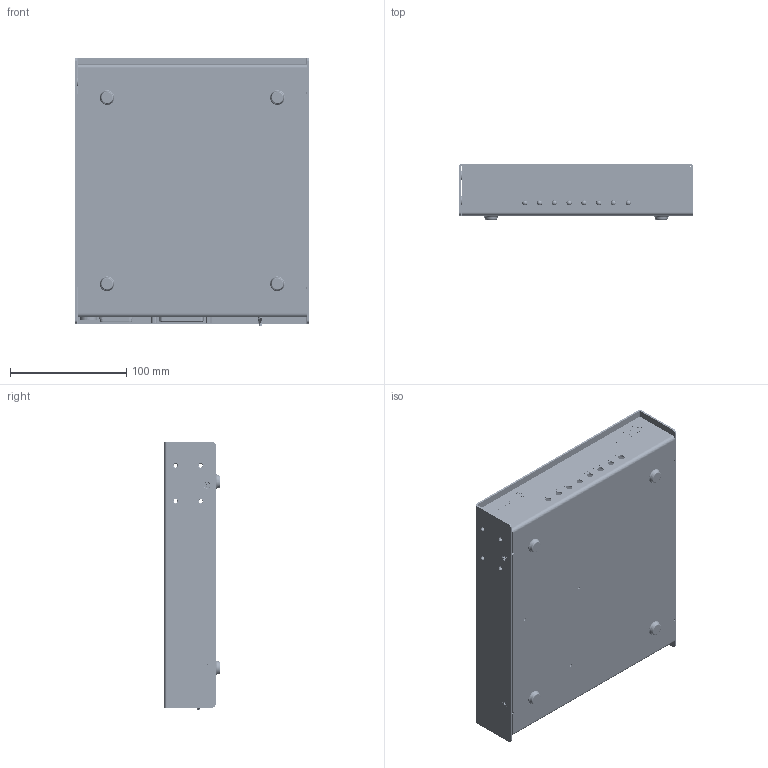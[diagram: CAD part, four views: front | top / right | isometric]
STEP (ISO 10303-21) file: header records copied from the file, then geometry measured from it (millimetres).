
FILE_DESCRIPTION(/* description */ (''),/* implementation_level */ '2;1');
FILE_NAME(/* name */ 'CE-232 V3.step',/* time_stamp */ '2022-11-30T16:11:09-05:00',/* author */ (''),/* organization */ (''),/* preprocessor_version */ 'ST-DEVELOPER v19.2',/* originating_system */ 'Autodesk Translation Framework v11.17.0.187',/* authorisation */ '');
FILE_SCHEMA (('AUTOMOTIVE_DESIGN { 1 0 10303 214 3 1 1 }'));
Products named in the file (23): CE-232 Master Assembly; CE-232 Chassis; 93090A210_Press-Fit Threaded Standoffs; FHS-632-8; FHS-632-6; CLS-440-2-PennEngineering-3D-07-11-2022; CE-232 Cover; CLS-832-2-PennEngineering-3D-06-03-2022; 702002; 702001 ; Component1; 715000; 715001; PCB; K42X-B25S-S-A4NJ_rA3; 710008; RJ45; RJ45_1; Component1_1; Power Supply XFMR; 713005; 4-40 x 1/4" Screw; 91771A106_Passivated 18-8 Stainless Steel Phillips Flat Head Screw
Assembly tree (58 placements, depth 4):
  CE-232 Master Assembly
    CE-232 Chassis
      93090A210_Press-Fit Threaded Standoffs  x4
      FHS-632-8
      FHS-632-6
      CLS-440-2-PennEngineering-3D-07-11-2022  x4
    CE-232 Cover
      CLS-832-2-PennEngineering-3D-06-03-2022  x8
    702002
    702001 
      Component1
    715000  x4
    715001  x4
    PCB
      K42X-B25S-S-A4NJ_rA3
      710008  x8
      RJ45
        Component1_1
      RJ45_1
        Component1_1
      Power Supply XFMR
      713005  x4
    4-40 x 1/4" Screw  x4
    91771A106_Passivated 18-8 Stainless Steel Phillips Flat Head Screw  x4
Bounding box: 200.96 x 48.01 x 230.86 mm (x, y, z)
Volume: 352631.1 mm3; surface area: 377734.3 mm2
Topology: 80 solids, 84 shells, 9213 faces, 24505 edges, 15977 vertices
Faces by surface type: plane 4728, bspline 2701, cylinder 1326, cone 259, torus 142, sphere 57
Full cylindrical faces by diameter (mm): 0.561 x16, 0.65 x24, 0.885 x1, 0.925 x1, 1.2 x50, 1.333 x4, 1.4 x2, 2.02 x88, 2.156 x4, 2.261 x3, 2.271 x8, 2.474 x20, 2.6 x3, 2.76 x4, 2.845 x96, 2.9 x6, 2.91 x2, 2.972 x1, 3 x3, 3.1 x2, 3.14 x4, 3.175 x6, 3.302 x4, 3.307 x8, 3.4 x4, 3.48 x1, 3.505 x20, 3.556 x10, 3.962 x2, 4.1 x4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
Entity records: 299162 total; most frequent: CARTESIAN_POINT 113612, ORIENTED_EDGE 42422, DIRECTION 28388, EDGE_CURVE 21211, VERTEX_POINT 13851, LINE 13472, VECTOR 13472, EDGE_LOOP 8672
